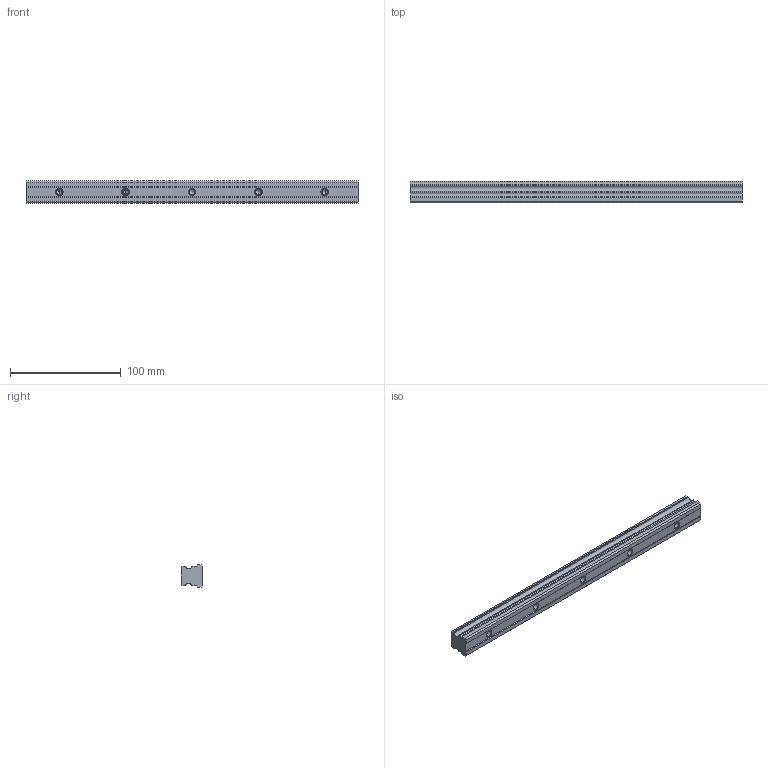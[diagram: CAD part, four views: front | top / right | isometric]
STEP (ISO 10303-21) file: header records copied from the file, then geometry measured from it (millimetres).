
FILE_DESCRIPTION (( 'STEP AP203' ), '1' );
FILE_NAME ('L1018.20R-0300.step', '2023-08-06T09:04:39', ( '' ), ( '' ), 'SwSTEP 2.0', 'SolidWorks 2019', '' );
FILE_SCHEMA (( 'CONFIG_CONTROL_DESIGN' ));
Length unit declared in the file: millimetre
Products named in the file (1): L1018.20R-0300
Bounding box: 300 x 19.3 x 20 mm (x, y, z)
Volume: 95138.5 mm3; surface area: 25962.8 mm2
Topology: 1 solids, 1 shells, 74 faces, 181 edges, 109 vertices
Faces by surface type: plane 31, cylinder 23, cone 20
Entity records: 2168 total; most frequent: DIRECTION 377, CARTESIAN_POINT 355, ORIENTED_EDGE 342, EDGE_CURVE 171, AXIS2_PLACEMENT_3D 131, LINE 115, VECTOR 115, VERTEX_POINT 109
